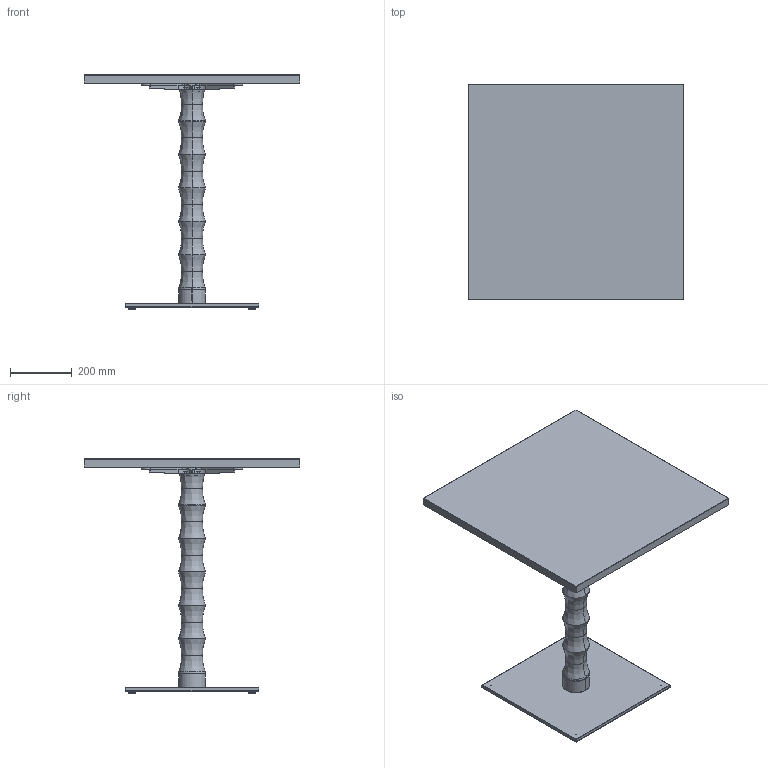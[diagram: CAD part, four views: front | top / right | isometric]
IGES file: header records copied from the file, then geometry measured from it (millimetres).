
Start section: SolidWorks IGES file using analytic representation for surfaces
Global section: file name: C:\Users\Adao\Documents\Trab Adao\Desenho técnico PRODUÇÃO\J M S\MESAS\LAGOA\LAGOA (3D)\Mesa LAGOA MM-539.IGS; native system: SolidWorks 2012; preprocessor: SolidWorks 2012; author: Adao; date: 121219.182947; units: millimetre
Bounding box: 700 x 700 x 760.5 mm (x, y, z)
Surface area: 3187781 mm2 (no closed solid volume)
Topology: 0 solids, 0 shells, 365 faces, 5869 edges, 5865 vertices
Faces by surface type: bspline 183, revolution 182
